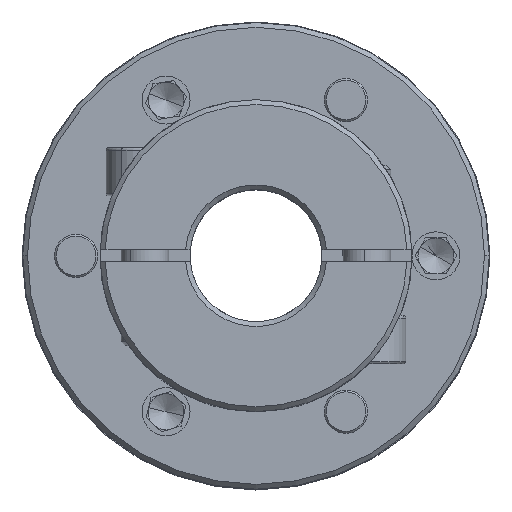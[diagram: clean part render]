
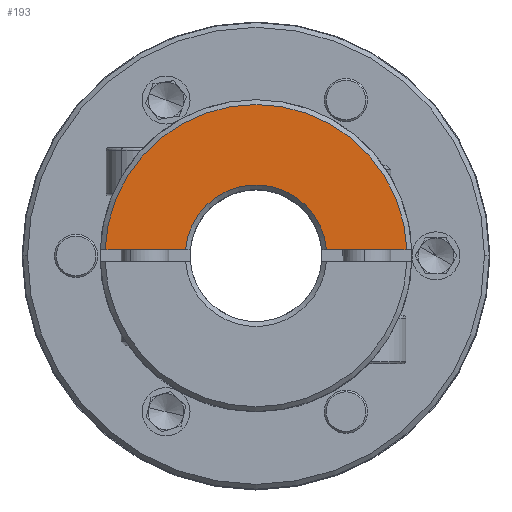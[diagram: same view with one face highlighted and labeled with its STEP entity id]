
A CAD part, top view. The second image highlights one B-rep face of the part: STEP entity #193.
In plain terms, the highlighted planar face has unit normal (0, 0, 1).
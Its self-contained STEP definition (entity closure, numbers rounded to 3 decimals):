
#193 = ADVANCED_FACE ( 'NONE', ( #6534 ), #12795, .T. ) ;
#305 = CARTESIAN_POINT ( 'NONE',  ( -25.18, 1., 33.85 ) ) ;
#827 = DIRECTION ( 'NONE',  ( 0., 0., 1. ) ) ;
#1535 = CIRCLE ( 'NONE', #5773, 11.8 ) ;
#1662 = CARTESIAN_POINT ( 'NONE',  ( -39., 1., 33.85 ) ) ;
#1884 = EDGE_CURVE ( 'NONE', #12781, #10426, #15938, .T. ) ;
#3467 = CARTESIAN_POINT ( 'NONE',  ( -11.758, 1., 33.85 ) ) ;
#4922 = DIRECTION ( 'NONE',  ( 1., 0., 0. ) ) ;
#5163 = VERTEX_POINT ( 'NONE', #305 ) ;
#5714 = VECTOR ( 'NONE', #13259, 1000. ) ;
#5773 = AXIS2_PLACEMENT_3D ( 'NONE', #7202, #10503, #16458 ) ;
#5899 = ORIENTED_EDGE ( 'NONE', *, *, #17040, .T. ) ;
#6534 = FACE_OUTER_BOUND ( 'NONE', #8412, .T. ) ;
#7202 = CARTESIAN_POINT ( 'NONE',  ( 0., 0., 33.85 ) ) ;
#8285 = CARTESIAN_POINT ( 'NONE',  ( 0., 0., 33.85 ) ) ;
#8412 = EDGE_LOOP ( 'NONE', ( #16964, #11803, #5899, #14035 ) ) ;
#8583 = CIRCLE ( 'NONE', #20085, 25.2 ) ;
#8711 = AXIS2_PLACEMENT_3D ( 'NONE', #8285, #19370, #17543 ) ;
#9379 = EDGE_CURVE ( 'NONE', #5163, #10287, #19324, .T. ) ;
#9966 = CARTESIAN_POINT ( 'NONE',  ( 0., 0., 33.85 ) ) ;
#10287 = VERTEX_POINT ( 'NONE', #3467 ) ;
#10426 = VERTEX_POINT ( 'NONE', #11767 ) ;
#10503 = DIRECTION ( 'NONE',  ( 0., 0., -1. ) ) ;
#11173 = CARTESIAN_POINT ( 'NONE',  ( 11.758, 1., 33.85 ) ) ;
#11703 = DIRECTION ( 'NONE',  ( 1., 0., 0. ) ) ;
#11767 = CARTESIAN_POINT ( 'NONE',  ( 25.18, 1., 33.85 ) ) ;
#11803 = ORIENTED_EDGE ( 'NONE', *, *, #9379, .T. ) ;
#12781 = VERTEX_POINT ( 'NONE', #11173 ) ;
#12795 = PLANE ( 'NONE',  #8711 ) ;
#13259 = DIRECTION ( 'NONE',  ( 1., 0., 0. ) ) ;
#14035 = ORIENTED_EDGE ( 'NONE', *, *, #1884, .T. ) ;
#14501 = CARTESIAN_POINT ( 'NONE',  ( -39., 1., 33.85 ) ) ;
#15291 = EDGE_CURVE ( 'NONE', #10426, #5163, #8583, .T. ) ;
#15593 = VECTOR ( 'NONE', #4922, 1000. ) ;
#15938 = LINE ( 'NONE', #1662, #15593 ) ;
#16458 = DIRECTION ( 'NONE',  ( 1., 0., 0. ) ) ;
#16964 = ORIENTED_EDGE ( 'NONE', *, *, #15291, .T. ) ;
#17040 = EDGE_CURVE ( 'NONE', #10287, #12781, #1535, .T. ) ;
#17543 = DIRECTION ( 'NONE',  ( 1., 0., 0. ) ) ;
#19324 = LINE ( 'NONE', #14501, #5714 ) ;
#19370 = DIRECTION ( 'NONE',  ( 0., 0., 1. ) ) ;
#20085 = AXIS2_PLACEMENT_3D ( 'NONE', #9966, #827, #11703 ) ;
